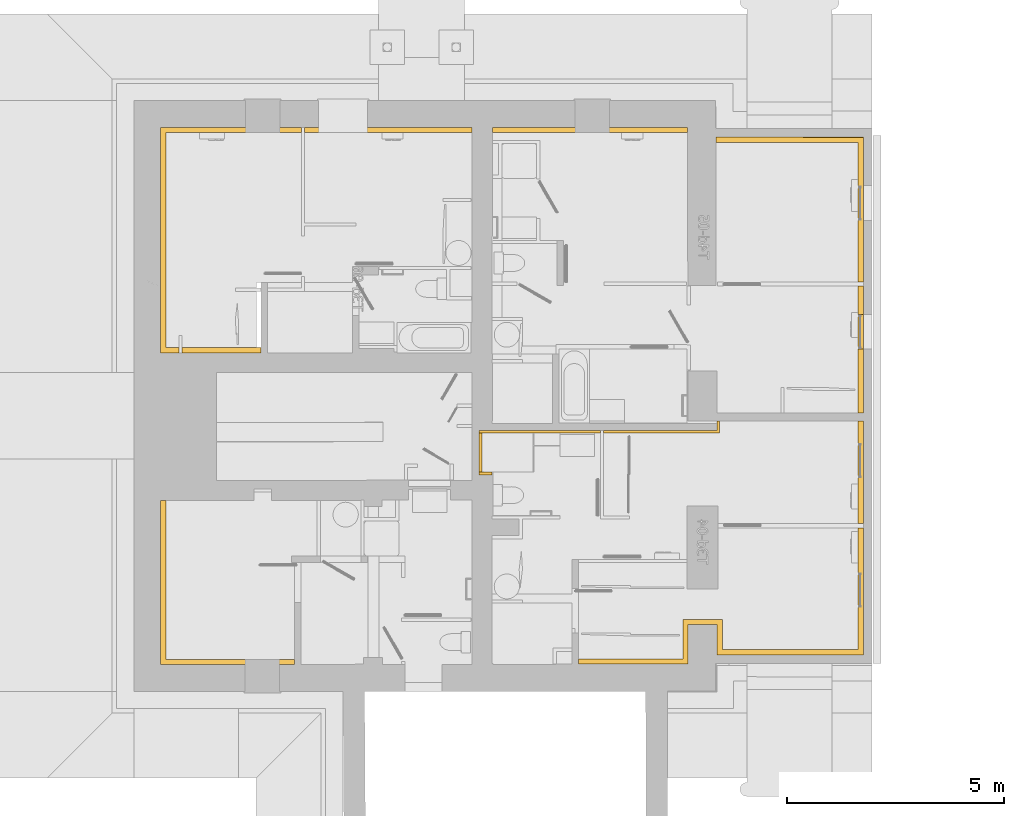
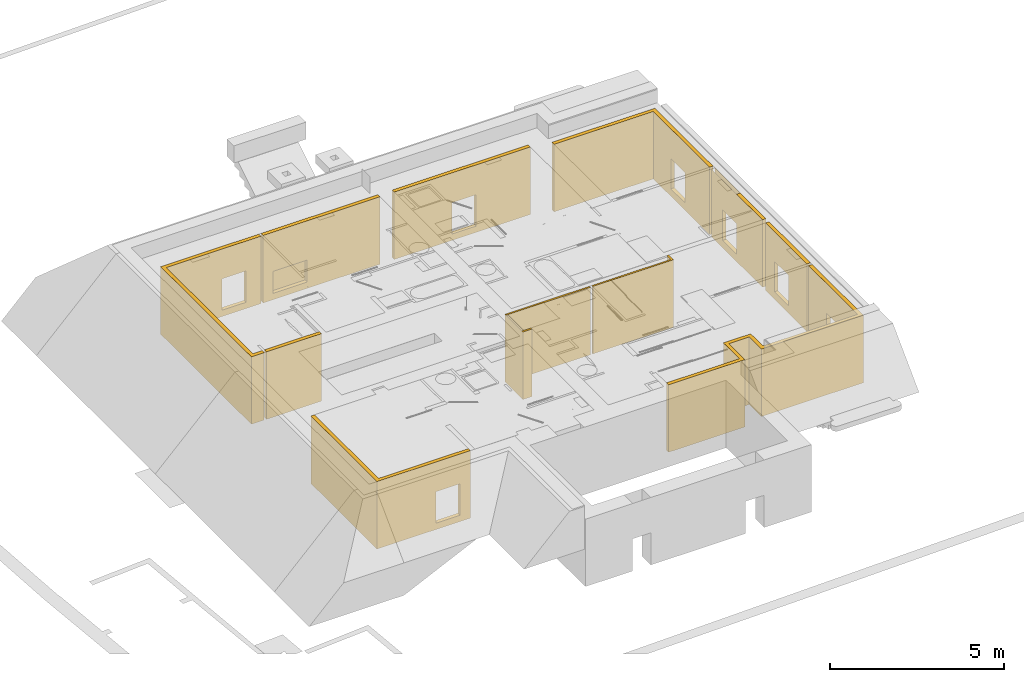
# Not in any storey, part 3 of 22: 2 coverings.
"""IFC4 model written with IfcOpenShell, lengths in metres."""

from ifc_helpers import new_model, si_unit, direction, origin_with_axes, place, context, subcontext, project, faceted_brep, element, save


model = new_model("IFC4")

# Units and contexts
model_context = context("Model", 3, precision=1e-05, world=origin_with_axes(), true_north=direction((1.0, 0.0)))
body_context = subcontext(model_context, "Body", "Model", "MODEL_VIEW")
ifc_project = project(units=[si_unit("LENGTHUNIT", "METRE"), si_unit("AREAUNIT", "SQUARE_METRE"), si_unit("VOLUMEUNIT", "CUBIC_METRE"), si_unit("MASSUNIT", "GRAM", prefix="KILO"), si_unit("TIMEUNIT", "SECOND"), si_unit("PLANEANGLEUNIT", "RADIAN"), si_unit("SOLIDANGLEUNIT", "STERADIAN")], contexts=[model_context])

# Coverings
placement = place(None, origin_with_axes())
element("IfcCovering", 1, at=placement, Name="Undefined", PredefinedType="NOTDEFINED", context=body_context, shape_type="AdvancedBrep", body=[
    faceted_brep([(157.137713, 28.180085, 0.0), (157.137736, 27.375815, 0.0), (157.137778, 25.962256, 0.0), (157.137778, 27.375815, 0.0), (157.137778, 28.180085, 0.0), (157.137778, 29.300972, 0.0), (157.137778, 29.301073, 0.0), (157.137681, 29.300976, 0.0), (157.137681, 29.296623, 0.0), (157.137692, 29.180271, 0.0), (157.137692, 29.180271, 2.31), (157.137681, 29.296623, 2.31), (157.137713, 28.180085, 2.31), (157.137713, 28.180085, 0.21), (157.137713, 28.180085, 1.27), (153.737264, 29.17907, 2.31), (157.018422, 29.179423, 2.31), (157.018422, 29.179423, -0.05), (153.737264, 29.17907, -0.05), (153.737264, 29.17907, 0.0), (157.137736, 27.375815, 0.21), (157.137778, 27.375815, 0.21), (157.137778, 28.180085, 0.21), (157.137778, 25.962256, 2.31), (157.137736, 27.375815, 2.31), (157.137736, 27.375815, 1.27), (157.018529, 28.180084, 1.27), (157.018615, 27.375815, 1.27), (157.137753, 27.688886, 1.27), (157.137753, 27.688886, 2.31), (157.018779, 24.40425, 1.27), (157.018779, 24.40425, 0.21), (157.137778, 24.40425, 0.21), (157.137778, 24.40425, 1.27), (143.662731, 17.243494, 0.17), (143.662731, 17.243494, 0.0), (143.662731, 17.243494, -0.05), (144.001428, 17.24362, -0.05), (144.001428, 17.24362, 0.0), (144.001428, 17.24362, 2.31), (143.662731, 17.243494, 2.31), (143.662731, 17.243494, 1.27), (144.001315, 17.12362, 2.31), (144.001315, 17.12362, 0.0), (140.911282, 20.907794, 2.31), (141.029808, 20.907794, 2.31), (141.033163, 20.907794, 2.31), (141.033163, 20.908272, 2.31), (142.858575, 17.24362, 2.31), (142.858575, 17.24362, 1.27), (151.282125, 29.404368, 1.27), (151.282125, 29.404368, 0.17), (151.282125, 29.526176, 0.17), (151.282125, 29.526176, 1.27), (157.137778, 29.180272, 2.31), (150.477857, 29.404368, -0.05), (150.477857, 29.404368, 0.17), (150.477857, 29.526176, 0.17), (150.477857, 29.526176, -0.05), (157.137778, 25.208519, 1.27), (157.018779, 25.208519, 1.27), (142.866927, 29.404368, 2.31), (143.671196, 29.40425, 2.31), (143.671196, 29.526176, 2.31), (142.866927, 29.526176, 2.31), (144.162793, 29.404377, 2.31), (144.162793, 29.526186, 2.31), (141.033345, 24.441422, 2.31), (141.033099, 29.404249, 2.31), (141.033099, 29.404249, -0.05), (141.033345, 24.441422, -0.05), (141.033345, 24.441422, 0.0), (150.477857, 29.404368, 2.31), (151.282125, 29.404368, 2.31), (153.059985, 29.404368, 2.31), (153.059985, 29.404368, -0.05), (151.282125, 29.404368, -0.05), (150.477857, 29.404368, 1.27), (149.597393, 29.404368, -0.05), (148.572857, 29.404368, -0.05), (148.572857, 29.404368, 0.0), (148.572857, 29.404368, 2.31), (148.573008, 29.526176, 2.31), (148.573008, 29.526176, 0.0), (150.477857, 29.526176, 1.27), (153.059985, 29.40765, 2.31), (153.059985, 29.40765, -0.05), (153.076917, 29.40765, 2.31), (153.076917, 29.40765, -0.05), (153.076917, 29.526176, 2.31), (151.282125, 29.526176, 2.31), (151.282125, 29.526176, -0.05), (153.076917, 29.526176, -0.05), (153.076917, 29.525091, 2.31), (144.560623, 29.526176, 2.31), (144.560623, 29.526176, 0.942), (145.69457, 29.526176, 0.942), (145.69457, 29.526176, 0.17), (144.560623, 29.526176, 0.17), (144.560623, 29.526176, 1.27), (144.560128, 29.526176, 1.27), (144.560128, 29.526176, 0.0), (144.560623, 29.526176, 0.0), (144.560623, 29.526176, -0.05), (145.69457, 29.526176, -0.05), (148.107378, 29.526176, -0.05), (148.107378, 29.526176, 2.31), (144.236793, 29.526167, 2.31), (144.236779, 29.404241, 2.31), (144.560128, 29.404368, 2.31), (148.081981, 29.404368, 2.31), (148.081981, 29.40765, 2.31), (148.107378, 29.40765, 2.31), (144.236793, 29.526167, -0.05), (144.560128, 29.526176, -0.05), (148.107378, 29.40765, -0.05), (148.107378, 29.40765, 0.0), (142.866927, 29.404368, 0.17), (142.866927, 29.404368, -0.05), (142.866927, 29.526176, -0.05), (142.866927, 29.526176, 0.17), (142.866927, 29.404368, 1.27), (143.671196, 29.526176, -0.05), (143.671196, 29.40425, -0.05), (143.671196, 29.40425, 0.17), (143.671196, 29.526176, 0.17), (143.671196, 29.526176, 1.27), (143.671196, 29.40425, 1.27), (140.911282, 29.526176, 2.31), (140.911282, 29.526176, 0.0), (140.911282, 29.526176, -0.05), (142.866927, 29.526176, 1.27), (142.872277, 29.526176, 0.17), (141.029808, 20.907794, -0.05), (141.033163, 20.907794, -0.05), (140.911282, 20.907794, -0.05), (141.031587, 17.243494, 2.31), (141.033156, 20.890861, 2.31), (141.031587, 17.243494, -0.05), (140.911282, 20.66228, -0.05), (140.911282, 20.052729, -0.05), (140.911282, 17.123494, -0.05), (140.911536, 24.319842, 2.31), (140.911536, 24.319565, 2.31), (140.91156, 24.319589, 2.31), (141.334669, 24.44183, 2.31), (141.334669, 24.44183, -0.05), (141.334669, 24.44183, 0.0), (140.933699, 24.319589, 2.31), (141.334583, 24.320021, 2.31), (141.334583, 24.320021, 0.0), (141.334583, 24.320021, -0.05), (140.933699, 24.319589, -0.05), (140.933699, 24.319589, 0.0), (143.230965, 24.319589, 2.31), (143.230965, 24.441525, 2.31), (143.230965, 24.441525, -0.05), (143.230965, 24.319589, -0.05), (140.911536, 24.319565, 0.0), (140.91156, 24.319589, 0.0), (141.408578, 24.441398, 2.31), (141.408578, 24.441398, 0.0), (141.408578, 24.441398, -0.05), (140.91156, 24.319589, -0.05), (142.858575, 17.24362, 0.17), (142.858461, 17.123494, 0.17), (143.662731, 17.123494, 0.17), (157.140069, 19.248458, 1.223166), (157.140069, 19.248458, 0.21), (157.019488, 19.248458, 0.21), (157.019488, 19.248458, 1.27), (157.140069, 19.248458, 1.27), (143.66273, 17.123494, 1.27), (142.858461, 17.123494, 1.27), (142.858575, 17.24362, -0.05), (144.001428, 17.123494, 0.0), (143.662731, 17.123494, 0.0), (143.662731, 17.123494, -0.05), (142.858461, 17.123494, -0.05), (140.911282, 17.123494, 2.31), (143.662731, 17.123494, 2.31), (144.001428, 17.123494, 2.31), (157.019488, 19.248458, 0.0), (157.140069, 19.248458, 0.0), (157.140069, 19.248458, -0.05), (157.019488, 19.248458, -0.05), (141.334669, 24.320021, 0.0), (141.334669, 24.380925, 0.0), (157.019378, 21.432684, -0.05), (157.019378, 21.432684, 0.21), (157.137778, 21.432684, 0.21), (157.137778, 21.432684, 0.0), (157.137778, 21.432684, -0.05), (157.019378, 22.236953, 0.21), (157.137778, 22.236953, 0.21), (157.019378, 22.236953, -0.05), (157.137778, 22.236953, -0.05), (140.911282, 25.843468, 0.0), (140.911536, 24.319842, 0.0), (140.911282, 26.723932, 0.0), (140.911536, 24.319842, -0.05), (141.408578, 24.319589, -0.05), (141.408578, 24.319589, 2.31), (141.334669, 24.320021, 2.31), (148.572857, 29.526176, 0.0), (148.573008, 29.526176, -0.05), (149.597393, 29.526176, -0.05), (150.477857, 29.526176, 2.31), (157.137681, 29.300976, 2.31), (157.137681, 29.300976, 0.083), (154.956551, 29.300913, 0.0), (157.018767, 25.962245, 2.31), (153.737264, 29.303313, 2.31), (157.137778, 21.432684, 2.31), (157.137778, 20.382906, 2.31), (157.019378, 20.382906, 2.31), (157.019378, 21.432684, 2.31), (157.019378, 22.236953, 2.31), (157.019378, 22.748276, 2.31), (157.137778, 22.748285, 2.31), (157.137778, 22.236953, 2.31), (157.019378, 20.28131, 0.0), (157.019378, 19.248458, 0.0), (157.140595, 20.28131, 0.0), (157.139394, 20.28131, 0.0), (157.140595, 20.28131, 2.31), (157.019378, 20.28131, 2.31), (157.019378, 20.28131, -0.05), (157.139394, 20.28131, -0.05), (153.762664, 17.349048, 2.31), (157.137778, 17.349048, 2.31), (157.140595, 18.444189, 2.31), (157.140069, 19.248458, 2.31), (157.019488, 19.248458, 2.31), (157.020652, 18.444016, 2.31), (157.020652, 17.469048, 2.31), (153.882664, 17.469048, 2.31), (153.762664, 17.469048, 2.31), (153.73713, 29.17907, 0.0), (153.73713, 29.312069, 0.0), (153.73713, 29.312069, 2.31), (144.236779, 29.404241, 0.0), (144.560128, 29.404368, 0.0), (144.560623, 29.404368, 0.0), (144.560623, 29.404241, 0.0), (145.69457, 29.404281, 0.0), (144.560623, 29.404246, 2.31), (145.69457, 29.404283, 2.31), (148.107378, 29.404368, 2.31), (148.107378, 29.404368, 0.0), (148.081981, 29.404368, 0.0), (148.081981, 29.40765, 0.0), (145.69457, 29.404286, 0.17), (144.560623, 29.404368, 0.17), (144.560623, 29.404286, 0.17), (144.560623, 29.404249, 1.27), (144.560623, 29.404287, 1.27), (144.560623, 29.404287, 0.942), (144.560623, 29.404241, 0.17), (145.69457, 29.404287, 0.942), (145.69457, 29.404368, -0.05), (148.081981, 29.404368, -0.05), (148.081981, 29.40765, -0.05), (157.137692, 29.180271, -0.05), (157.137681, 29.296623, -0.05), (154.956551, 29.300913, -0.05), (153.737264, 29.300879, -0.05), (153.737264, 29.300879, 0.0), (157.018529, 28.180084, -0.05), (157.137713, 28.180085, -0.05), (157.018767, 25.962245, -0.05), (157.137778, 25.962256, -0.05), (157.137736, 27.375815, -0.05), (157.018615, 27.375815, -0.05), (157.018779, 25.208519, -0.05), (157.137778, 25.208519, -0.05), (157.137778, 25.860664, -0.05), (157.018779, 25.860665, -0.05), (157.137778, 25.860664, 0.0), (157.018779, 25.860665, 0.0), (144.001315, 17.12362, -0.05), (145.69457, 29.404368, 0.0)], [[[0, 1, 2, 3, 4, 5, 6, 7, 8, 9]], [[10, 11, 8, 9]], [[12, 10, 9, 0, 13, 14]], [[15, 16, 17, 18, 19]], [[13, 20, 21, 22]], [[23, 24, 25, 20, 1, 2]], [[26, 27, 25, 28, 14]], [[24, 29, 28, 25]], [[29, 12, 14, 28]], [[30, 31, 32, 33]], [[34, 35, 36, 37, 38, 39, 40, 41]], [[42, 39, 38, 43]], [[44, 45, 46, 47]], [[40, 48, 49, 41]], [[50, 51, 52, 53]], [[54, 11, 10]], [[55, 56, 57, 58]], [[30, 33, 59, 60]], [[61, 62, 63, 64]], [[65, 66, 63, 62]], [[67, 68, 69, 70, 71]], [[72, 73, 74, 75, 76, 51, 50, 77, 56, 55, 78, 79, 80, 81]], [[82, 81, 80, 83]], [[84, 57, 56, 77]], [[77, 50, 53, 84]], [[74, 85, 86, 75]], [[85, 87, 88, 86]], [[89, 90, 53, 52, 91, 92]], [[93, 89, 92, 88, 87]], [[91, 52, 51, 76]], [[91, 76, 75, 86, 88, 92]], [[94, 95, 96, 97, 98, 99, 100, 101, 102, 103, 104, 105, 106]], [[107, 108, 109, 110, 111, 112, 106, 94]], [[101, 100, 99, 94, 107, 113, 114]], [[112, 106, 105, 115, 116]], [[117, 118, 119, 120]], [[68, 61, 121, 117, 118, 69]], [[122, 123, 124, 125]], [[62, 63, 126, 127]], [[64, 128, 129, 130, 119, 120, 131]], [[117, 124, 125, 132, 120]], [[46, 45, 133, 134]], [[45, 44, 135, 133]], [[136, 137, 46, 134, 138]], [[134, 133, 135, 139, 140, 141, 138]], [[67, 142, 143, 144]], [[145, 67, 71, 70, 146, 147]], [[148, 149, 150, 151, 152, 153]], [[154, 155, 156, 157]], [[158, 153, 159]], [[160, 161, 162, 156, 155]], [[67, 144, 159, 163, 70, 71]], [[34, 164, 165, 166]], [[167, 168, 169, 170, 171]], [[41, 172, 166, 34]], [[173, 172, 41, 49]], [[173, 165, 164, 49]], [[48, 136, 138, 174, 164, 49]], [[175, 176, 177, 178, 141, 179, 180, 181], [165, 166, 172, 173]], [[182, 169, 168, 183, 184, 185]], [[186, 187, 150]], [[188, 189, 190, 191, 192]], [[193, 189, 190, 194]], [[193, 195, 196, 194]], [[44, 179, 141, 140, 139, 135]], [[128, 142, 67, 68, 61, 64]], [[197, 198, 129, 199]], [[142, 198, 200, 70, 71, 67]], [[159, 144, 148, 153]], [[201, 202, 154, 157]], [[187, 147, 150]], [[147, 150, 149, 145]], [[149, 145, 67, 144, 148]], [[186, 150, 149, 203]], [[202, 201, 162, 161, 160]], [[202, 160, 155, 154]], [[122, 125, 132, 120, 119]], [[126, 63, 64, 131]], [[204, 80, 83]], [[205, 206, 58, 57, 84, 207, 82, 83]], [[57, 58, 91, 52]], [[73, 90, 89, 93, 87, 85, 74]], [[90, 73, 72, 207]], [[207, 72, 81, 82]], [[90, 207, 84, 53]], [[7, 8, 11, 208, 209]], [[7, 210, 8]], [[211, 23, 24, 29, 12, 10, 11, 212, 15, 16]], [[213, 214, 215, 216, 217, 218, 219, 220]], [[221, 222, 182]], [[223, 224, 183]], [[224, 223, 225, 226, 221, 227, 228]], [[229, 230, 231, 232, 225, 226, 233, 234, 235, 236, 237]], [[180, 40, 39, 42]], [[40, 180, 179, 44, 45, 46, 137, 136, 48]], [[38, 43, 176, 175]], [[238, 239, 19]], [[19, 239, 240, 15]], [[241, 242, 243, 244]], [[244, 243, 245]], [[110, 109, 108, 246, 247]], [[248, 112, 116, 249]], [[248, 112, 111, 110]], [[250, 249, 116, 251]], [[97, 252, 253, 98]], [[254, 255, 256, 257, 95, 98, 253]], [[258, 255, 254]], [[259, 252, 97, 96]], [[254, 253, 252]], [[102, 243, 242, 101]], [[70, 69, 130, 200]], [[129, 198, 200, 130]], [[152, 151, 146, 70, 163]], [[150, 147, 146, 151]], [[159, 153, 152, 163]], [[162, 201, 157, 156]], [[118, 119, 130, 69]], [[104, 260, 261, 262, 115, 105]], [[250, 251, 262, 261]], [[251, 116, 115, 262]], [[79, 78, 206, 205]], [[83, 80, 79, 205]], [[55, 58, 206, 78]], [[263, 264, 265, 266, 18, 17]], [[9, 8, 264, 263]], [[8, 210, 265, 264]], [[210, 267, 266, 265]], [[267, 19, 18, 266]], [[263, 17, 268, 269]], [[0, 9, 263, 269]], [[270, 271, 272, 273]], [[2, 1, 272, 271]], [[274, 275, 276, 277]], [[278, 279, 277, 276]], [[228, 227, 185, 184]], [[221, 182, 185, 227]], [[183, 224, 228, 184]], [[36, 177, 280, 37]], [[176, 43, 280, 177]], [[43, 38, 37, 280]], [[141, 178, 174, 138]], [[281, 250, 261, 260]], [[250, 245, 243, 281]], [[257, 259, 96, 95]]]),
    faceted_brep([(157.018779, 25.860665, -0.05), (157.018779, 25.208519, -0.05), (157.018779, 24.40425, -0.05), (157.018779, 22.928276, -0.05), (157.018779, 22.928276, 2.31), (157.018779, 24.40425, 2.31), (157.018779, 25.860665, 2.31), (157.018779, 25.860665, 0.0), (157.018779, 24.40425, 1.27), (157.018779, 24.40425, 0.21), (157.018779, 25.208519, 0.21), (157.018779, 25.208519, 1.27), (157.137713, 28.180085, 0.21), (157.137736, 27.375815, 0.21), (157.137736, 27.375815, 0.0), (157.137713, 28.180085, 0.0), (157.018529, 28.180084, 0.21), (157.018615, 27.375815, 0.21), (157.137778, 25.208519, 0.21), (157.137778, 24.40425, 0.21), (157.137778, 24.40425, -0.05), (157.137778, 25.208519, -0.05), (144.162793, 29.526186, 2.31), (144.162793, 29.404377, 2.31), (144.162793, 29.404377, -0.05), (144.162793, 29.526186, -0.05), (157.137778, 22.928285, -0.05), (157.019208, 22.928277, -0.05), (157.019208, 22.928277, 2.31), (157.137778, 22.928285, 2.31), (157.137778, 24.40425, 2.31), (143.671196, 29.40425, 2.31), (143.671196, 29.40425, 1.27), (143.671196, 29.40425, 0.17), (143.671196, 29.40425, -0.05), (157.137778, 25.208519, 1.27), (150.477857, 29.404368, 0.17), (151.282125, 29.404368, 0.17), (151.282125, 29.526176, 0.17), (150.477857, 29.526176, 0.17), (150.477857, 29.404368, -0.05), (151.282125, 29.404368, -0.05), (143.671196, 29.526176, 1.27), (143.671196, 29.526176, 0.17), (142.866927, 29.404368, 2.31), (142.866927, 29.404368, 1.27), (142.866927, 29.526176, 1.27), (142.866927, 29.404368, 0.17), (142.866927, 29.526176, 0.17), (142.866927, 29.404368, -0.05), (143.671196, 29.526176, -0.05), (152.975427, 17.250346, 2.31), (152.975327, 17.250346, 2.31), (151.189001, 17.250282, 2.31), (150.562517, 17.250259, 2.31), (150.562517, 17.131971, 2.31), (151.189001, 17.131959, 2.31), (152.975435, 17.131958, 2.31), (152.975327, 18.134754, 2.31), (152.975327, 18.046287, 2.31), (153.09385, 17.131959, 2.31), (153.09385, 18.046287, 2.31), (153.093724, 18.164693, 2.31), (152.975327, 18.164693, 2.31), (150.562517, 17.250346, 2.31), (152.975327, 17.250346, -0.05), (150.562517, 17.250346, -0.05), (152.975327, 18.164793, -0.05), (152.975324, 18.164811, 2.31), (157.020652, 18.444016, 2.31), (157.019488, 19.248458, 2.31), (157.019488, 19.248458, 1.27), (157.020652, 18.444016, 1.27), (157.140069, 19.248458, 2.31), (157.140595, 18.444189, 2.31), (157.140595, 18.444189, 1.27), (157.140069, 19.248458, 1.27), (157.137778, 21.432684, 2.31), (157.138638, 21.432684, 2.31), (157.138638, 21.432684, 1.27), (157.138638, 21.432684, 0.21), (157.138638, 21.432684, 0.0), (157.137778, 21.432684, 0.0), (157.137778, 21.432684, 0.21), (157.137778, 21.432684, 1.27), (153.882664, 17.469048, 2.31), (157.020652, 17.469048, 2.31), (157.020652, 17.469048, -0.05), (153.882664, 17.469048, -0.05), (157.019378, 20.28131, 2.31), (157.019378, 20.28131, 0.0), (157.019488, 19.248458, 0.0), (157.019488, 19.248458, 0.21), (142.858575, 17.24362, 0.17), (143.662731, 17.243494, 0.17), (143.662731, 17.243494, 0.0), (143.662731, 17.243494, -0.05), (142.858575, 17.24362, -0.05), (157.020652, 18.444189, 0.21), (157.140595, 18.444189, 0.21), (157.140069, 19.248458, 0.21), (152.97845, 18.164808, 2.31), (153.671357, 18.164793, 2.31), (153.00038, 18.164793, 2.31), (157.020652, 18.444189, -0.05), (157.140595, 18.444189, -0.05), (157.140595, 18.444189, 0.0), (157.019488, 19.248458, -0.05), (153.762664, 18.164808, 2.31), (153.692483, 18.164796, 2.31), (153.762664, 18.046287, 2.31), (153.762664, 17.469048, 2.31), (153.882664, 18.046287, 2.31), (153.88267, 18.164793, 2.31), (157.019378, 22.748276, 2.31), (157.137778, 22.748285, 2.31), (157.137778, 22.748285, 0.083), (157.137778, 22.748285, -0.05), (157.019378, 22.748276, -0.05), (157.019378, 21.432684, 1.27), (157.019378, 21.432684, 0.21), (157.137778, 22.236953, 2.31), (157.137778, 22.236953, 1.27), (157.020652, 18.444016, -0.05), (157.019378, 21.432684, 2.31), (157.019378, 22.236953, 2.31), (157.019378, 22.236953, 1.27), (157.140595, 17.349048, 0.0), (157.137778, 17.349048, 0.0), (157.137778, 22.236953, 0.21), (157.019378, 22.236953, 0.21), (157.138112, 22.236953, 2.31), (157.019378, 22.236953, -0.05), (157.137778, 22.236953, -0.05), (157.019378, 20.382906, 2.31), (157.019378, 21.432684, -0.05), (157.019378, 20.382906, -0.05), (140.911536, 24.319842, 2.31), (140.911282, 29.526176, 2.31), (140.911282, 29.526176, 0.0), (140.911536, 24.319842, 0.0), (144.236793, 29.526167, 2.31), (144.236793, 29.526167, -0.05), (144.236779, 29.404241, -0.05), (144.236779, 29.404241, 0.0), (144.236779, 29.404241, 2.31), (143.671196, 29.526176, 2.31), (153.737264, 29.303313, 2.31), (157.137681, 29.296623, 2.31), (157.137681, 29.296623, 0.0), (154.956551, 29.300913, 0.0), (153.737264, 29.303313, 0.0), (157.137778, 25.962256, 0.0), (157.137778, 25.962256, 2.31), (157.018767, 25.962245, 2.31), (157.018767, 25.962245, -0.05), (157.137778, 25.962256, -0.05), (157.137778, 24.40425, 1.27), (157.137778, 20.382906, 2.31), (157.137778, 20.382907, -0.05), (157.137778, 21.432684, -0.05), (157.140595, 20.28131, 2.31), (157.140069, 19.248458, 1.223166), (157.140069, 19.248458, 0.0), (157.140595, 20.28131, 0.0), (157.140069, 19.248458, -0.05), (157.137778, 17.349048, 2.31), (153.09385, 18.046287, -0.05), (153.09385, 17.131959, -0.05), (153.762664, 18.046287, -0.05), (153.762664, 17.349048, -0.05), (153.762664, 17.349048, 2.31), (157.137778, 17.349048, -0.05), (150.562517, 17.131971, -0.05), (151.189001, 17.131959, -0.05), (153.882664, 18.164793, -0.05), (144.560623, 29.404249, 1.27), (144.560623, 29.404246, 2.31), (144.560623, 29.404241, 0.0), (144.560623, 29.404241, 0.17), (142.866927, 29.526176, -0.05), (144.560128, 29.526176, -0.05), (144.560128, 29.404368, -0.05), (144.560128, 29.526176, 0.0), (144.560128, 29.404368, 0.0), (145.69457, 29.404368, -0.05), (144.560623, 29.404368, -0.05), (144.560623, 29.526176, -0.05), (145.69457, 29.526176, -0.05), (145.69457, 29.404368, 0.0), (144.560623, 29.404368, 0.0), (144.560623, 29.526176, 0.0), (150.477857, 29.526176, -0.05), (151.282125, 29.526176, -0.05), (157.137713, 28.180085, -0.05), (157.137736, 27.375815, -0.05), (157.018615, 27.375815, -0.05), (157.018529, 28.180084, -0.05), (143.662731, 17.123494, -0.05), (142.858461, 17.123494, -0.05), (144.560623, 29.404368, 0.17), (144.560128, 29.404368, 0.17), (145.69457, 29.404281, 0.0), (145.69457, 29.404286, 0.17), (144.560623, 29.404287, 1.27), (144.560623, 29.404287, 0.942), (145.69457, 29.404287, 0.942), (145.69457, 29.404283, 2.31), (148.081981, 29.404368, 0.0), (148.107378, 29.404368, 0.0), (148.107378, 29.404368, 2.31), (148.081981, 29.404368, 2.31)], [[[0, 1, 2, 3, 4, 5, 6, 7], [8, 9, 10, 11]], [[12, 13, 14, 15]], [[16, 17, 13, 12]], [[18, 19, 20, 21]], [[22, 23, 24, 25]], [[10, 9, 19, 18]], [[26, 27, 3, 2, 20]], [[28, 4, 3, 27]], [[28, 29, 30, 5, 4]], [[29, 28, 27, 26]], [[23, 31, 32, 33, 34, 24]], [[11, 10, 18, 35]], [[36, 37, 38, 39]], [[37, 36, 40, 41]], [[42, 43, 33, 32]], [[31, 44, 45, 32]], [[46, 45, 47, 48]], [[47, 49, 34, 33]], [[32, 45, 46, 42]], [[25, 24, 34, 50]], [[51, 52, 53, 54, 55, 56, 57]], [[58, 59, 51, 57, 60, 61, 62, 63]], [[52, 64, 54, 53]], [[52, 65, 66, 64]], [[67, 65, 52, 59, 58, 63, 68]], [[69, 70, 71, 72]], [[73, 74, 75, 76]], [[77, 78, 79, 80, 81, 82, 83, 84]], [[85, 86, 87, 88]], [[70, 89, 90, 91, 92, 71]], [[72, 71, 76, 75]], [[93, 94, 95, 96, 97]], [[92, 98, 99, 100]], [[101, 68, 63, 62, 102, 103]], [[99, 98, 104, 105, 106]], [[98, 92, 91, 107, 104]], [[108, 109, 102, 62, 61, 110, 111, 85, 112, 113]], [[59, 52, 51]], [[114, 115, 116, 117, 118]], [[119, 84, 83, 120]], [[121, 77, 84, 122]], [[86, 69, 72, 123, 87]], [[124, 125, 126, 119]], [[123, 72, 75, 99, 106, 105]], [[127, 128, 106]], [[122, 84, 119, 126]], [[129, 122, 126, 130]], [[131, 78, 77, 121]], [[125, 114, 118, 132, 130, 126]], [[115, 121, 122, 129, 133, 117, 116]], [[134, 124, 119, 120, 135, 136]], [[137, 138, 139, 140]], [[141, 142, 143, 144, 145]], [[43, 42, 146, 22, 25, 50]], [[147, 148, 149, 150, 151]], [[152, 153, 154, 155, 156]], [[29, 26, 20, 19, 157, 30]], [[77, 158, 159, 160, 82, 83, 84]], [[159, 158, 134, 136]], [[161, 73, 76, 162, 100, 163, 164]], [[163, 100, 99, 106, 105, 165]], [[128, 106, 99, 75, 74, 166]], [[167, 61, 60, 168]], [[61, 167, 169, 110]], [[110, 169, 170, 171, 111]], [[166, 171, 170, 172, 128]], [[173, 55, 54, 64, 66]], [[55, 173, 174, 56]], [[57, 56, 174, 168, 60]], [[175, 113, 112, 85, 88]], [[175, 67, 68, 101, 103, 102, 109, 108, 113]], [[176, 177, 145, 144, 178, 179]], [[34, 49, 180, 50]], [[143, 142, 181, 182]], [[183, 184, 182, 181]], [[184, 144, 143, 182]], [[185, 186, 187, 188]], [[189, 190, 186, 185]], [[190, 191, 187, 186]], [[41, 40, 192, 193]], [[194, 195, 196, 197]], [[15, 14, 195, 194]], [[2, 1, 21, 20]], [[117, 133, 132, 118]], [[159, 136, 135, 160]], [[104, 107, 165, 105]], [[123, 105, 172, 87]], [[106, 128, 172, 105]], [[169, 167, 168, 174, 173, 66, 65, 67, 175, 88, 87, 172, 170]], [[97, 96, 198, 199]], [[200, 201, 184, 190, 202, 203]], [[177, 204, 205, 206, 207]], [[207, 206, 203, 202, 208, 209, 210, 211]]]),
    faceted_brep([(157.018422, 29.179423, 2.31), (157.018422, 29.179423, -0.05), (157.018529, 28.180084, -0.05), (157.018615, 27.375815, -0.05), (157.018767, 25.962245, -0.05), (157.018767, 25.962245, 2.31), (157.018615, 27.375815, 0.21), (157.018529, 28.180084, 0.21), (157.018529, 28.180084, 1.27), (157.018615, 27.375815, 1.27), (157.137778, 25.208519, 2.31), (157.137778, 24.40425, 2.31), (157.137778, 24.40425, 1.27), (157.137778, 25.208519, 1.27), (157.137778, 25.860664, 2.31), (157.137778, 25.208519, 0.21), (157.137778, 25.208519, -0.05), (157.137778, 25.860664, -0.05), (157.137778, 25.860664, 0.0), (157.019378, 22.236953, 0.21), (157.019378, 22.236953, -0.05), (157.019378, 21.432684, -0.05), (157.019378, 21.432684, 0.21), (157.137778, 21.432684, 0.21), (157.137778, 21.432684, 0.0), (157.137778, 21.432684, -0.05), (157.137778, 22.236953, -0.05), (157.137778, 22.236953, 0.21)], [[[0, 1, 2, 3, 4, 5], [6, 7, 8, 9]], [[10, 11, 12, 13]], [[14, 10, 13, 15, 16, 17, 18]], [[19, 20, 21, 22]], [[23, 24, 25, 26, 27]], [[21, 20, 26, 25]]]),
])
element("IfcCovering", 2, at=placement, Name="Undefined", PredefinedType="NOTDEFINED", context=body_context, shape_type="Brep", body=[
    faceted_brep([(148.268231, 21.568508, 2.31), (148.327538, 21.568508, 2.31), (148.327537, 21.568508, -0.05), (148.268231, 21.568508, -0.05), (148.268232, 21.568091, 2.31), (148.275299, 21.568141, 2.31), (148.268232, 21.568141, 2.31), (148.327451, 22.473219, 2.31), (148.268231, 22.473219, 2.31), (148.268231, 22.473219, -0.05), (148.327451, 22.473219, -0.05), (148.327451, 22.473634, 2.31), (148.327537, 22.473219, 2.31)], [[[0, 1, 2, 3]], [[4, 5, 6]], [[7, 8, 9, 10]], [[2, 10, 9, 3]], [[1, 7, 10, 2]], [[11, 8, 7]], [[8, 0, 3, 9]], [[7, 1, 12]]]),
    faceted_brep([(151.144475, 22.473213, -0.05), (153.754198, 22.473208, -0.05), (153.814023, 22.473196, -0.05), (153.814023, 22.473196, 2.31), (153.754198, 22.473208, 2.31), (151.144475, 22.473213, 2.31), (148.268231, 22.473219, 2.31), (148.268231, 22.533264, 2.31), (148.268231, 22.533264, -0.05), (148.268231, 22.473219, -0.05), (148.327537, 22.473219, 2.31), (148.581474, 22.473219, 2.31), (151.070475, 22.473214, 2.31), (151.070476, 22.533263, 2.31), (148.327451, 22.473634, 2.31), (148.327451, 22.473219, 2.31), (148.564542, 21.500413, 2.31), (148.268232, 21.500413, 2.31), (148.268232, 21.500413, -0.05), (148.564542, 21.500413, -0.05), (153.754196, 22.685652, -0.05), (153.754196, 22.744913, -0.05), (153.814023, 22.744913, -0.05), (153.754196, 22.533263, -0.05), (151.070475, 22.473214, -0.05), (148.327537, 22.473219, -0.05), (148.327451, 22.473219, -0.05), (148.327451, 22.473634, -0.05), (151.070476, 22.533263, -0.05), (151.144475, 22.533263, 2.31), (153.754196, 22.533263, 2.31), (148.268232, 21.568091, 2.31), (148.564542, 21.568141, 2.31), (148.564542, 21.568141, -0.05), (148.268232, 21.568091, -0.05), (153.814023, 22.744913, 2.31), (153.754196, 22.744913, 2.31), (153.754196, 22.685652, 2.31), (151.144475, 22.533263, -0.05)], [[[0, 1, 2, 3, 4, 5]], [[6, 7, 8, 9]], [[10, 11, 12, 13, 7, 6, 14, 15]], [[16, 17, 18, 19]], [[20, 21, 22, 2, 1, 23]], [[24, 25, 26, 27, 9, 8, 28]], [[29, 5, 4, 30]], [[31, 32, 33, 34]], [[17, 31, 34, 18]], [[35, 3, 2, 22]], [[32, 16, 19, 33]], [[10, 15, 26, 25]], [[13, 12, 24, 28]], [[36, 37, 30, 4, 3, 35]], [[37, 36, 21, 20]], [[5, 29, 38, 0]], [[16, 32, 31, 17]], [[29, 30, 23, 38]], [[10, 25, 24, 12, 11]], [[30, 37, 20, 23]], [[14, 6, 9, 27]], [[15, 14, 27, 26]], [[33, 19, 18, 34]], [[7, 13, 28, 8]], [[36, 35, 22, 21]], [[0, 38, 23, 1]]]),
])

save(model, "model.ifc")
